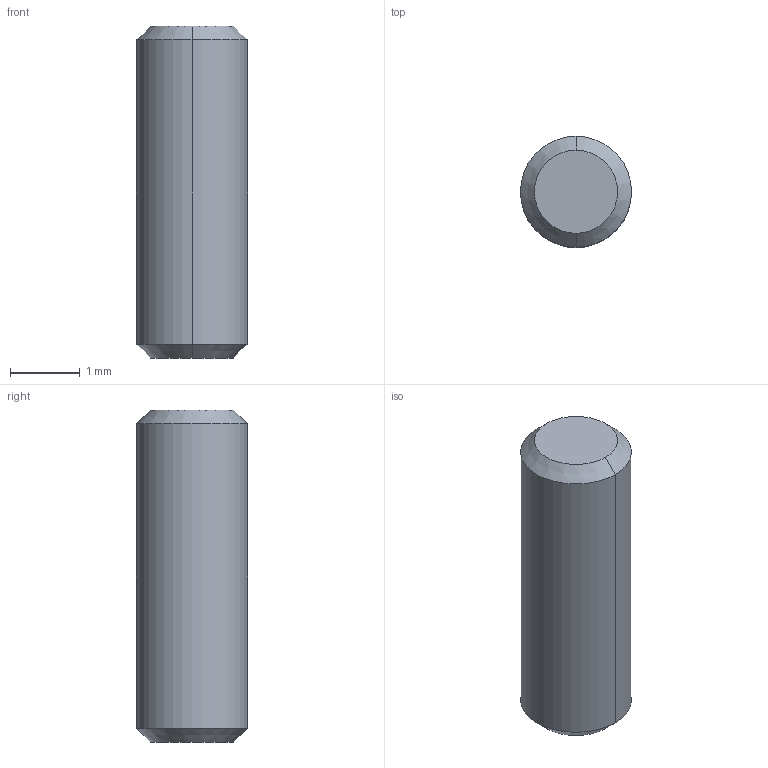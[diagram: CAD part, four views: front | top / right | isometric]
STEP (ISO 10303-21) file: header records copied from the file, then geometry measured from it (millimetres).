
FILE_DESCRIPTION(/* description */ ('VariCAD 2010-3.03 AP-214'),/* implementation_level */ '2;1');
FILE_NAME(/* name */ '0353-84-11',/* time_stamp */ '2011-03-03T16:30:34-07:00',/* author */ (''),/* organization */ (''),/* preprocessor_version */ 'ST-DEVELOPER v12',/* originating_system */ 'VariCAD 2010-3.03; kernel version (20100102)',/* authorisation */ '');
FILE_SCHEMA (('AUTOMOTIVE_DESIGN'));
Length unit declared in the file: millimetre
Products named in the file (1): Part
Bounding box: 1.59 x 1.59 x 4.76 mm (x, y, z)
Volume: 9.3 mm3; surface area: 26.5 mm2
Topology: 1 solids, 1 shells, 8 faces, 14 edges, 8 vertices
Faces by surface type: cone 4, cylinder 2, plane 2
Entity records: 221 total; most frequent: DIRECTION 42, CARTESIAN_POINT 32, ORIENTED_EDGE 28, AXIS2_PLACEMENT_3D 18, EDGE_CURVE 14, ADVANCED_FACE 8, FACE_OUTER_BOUND 8, EDGE_LOOP 8
